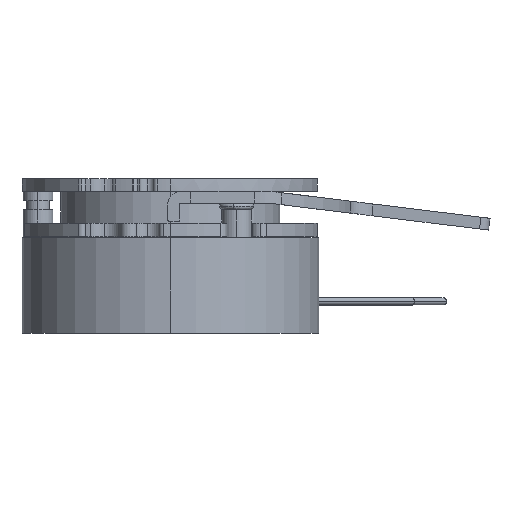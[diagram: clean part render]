
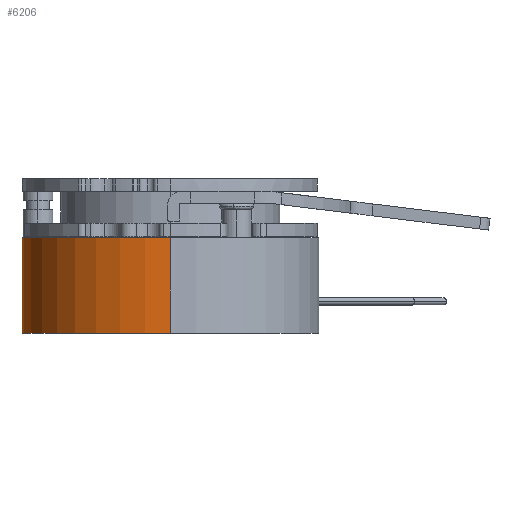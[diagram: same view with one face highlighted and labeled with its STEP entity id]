
A CAD part, left-side view. The second image highlights one B-rep face of the part: STEP entity #6206.
In plain terms, the highlighted cylindrical face has radius 32.5 mm (diameter 65 mm), a partial arc.
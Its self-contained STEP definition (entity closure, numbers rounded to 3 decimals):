
#781 = CARTESIAN_POINT ( 'NONE',  ( 32.5, 0., 21. ) ) ;
#786 = DIRECTION ( 'NONE',  ( 0., 0., -1. ) ) ;
#4063 = VERTEX_POINT ( 'NONE', #13033 ) ;
#4092 = EDGE_LOOP ( 'NONE', ( #9966, #9792, #10599, #10595 ) ) ;
#4120 = VERTEX_POINT ( 'NONE', #13010 ) ;
#4151 = VERTEX_POINT ( 'NONE', #12995 ) ;
#4185 = VERTEX_POINT ( 'NONE', #12984 ) ;
#4828 = EDGE_CURVE ( 'NONE', #4120, #4151, #9097, .T. ) ;
#5111 = EDGE_CURVE ( 'NONE', #4063, #4185, #9346, .T. ) ;
#5245 = EDGE_CURVE ( 'NONE', #4063, #4120, #8655, .T. ) ;
#6206 = ADVANCED_FACE ( 'NONE', ( #11833 ), #11786, .T. ) ;
#6792 = EDGE_CURVE ( 'NONE', #4151, #4185, #13342, .T. ) ;
#6943 = AXIS2_PLACEMENT_3D ( 'NONE', #9237, #9235, #9232 ) ;
#8655 = CIRCLE ( 'NONE', #12438, 32.5 ) ;
#9097 = LINE ( 'NONE', #781, #9103 ) ;
#9103 = VECTOR ( 'NONE', #786, 1000. ) ;
#9232 = DIRECTION ( 'NONE',  ( -1., 0., 0. ) ) ;
#9235 = DIRECTION ( 'NONE',  ( 0., 0., 1. ) ) ;
#9237 = CARTESIAN_POINT ( 'NONE',  ( 0., 0., 0. ) ) ;
#9343 = VECTOR ( 'NONE', #15676, 1000. ) ;
#9346 = LINE ( 'NONE', #15645, #9343 ) ;
#9792 = ORIENTED_EDGE ( 'NONE', *, *, #4828, .T. ) ;
#9966 = ORIENTED_EDGE ( 'NONE', *, *, #5245, .T. ) ;
#10595 = ORIENTED_EDGE ( 'NONE', *, *, #5111, .F. ) ;
#10599 = ORIENTED_EDGE ( 'NONE', *, *, #6792, .T. ) ;
#10856 = AXIS2_PLACEMENT_3D ( 'NONE', #13648, #13734, #13717 ) ;
#11786 = CYLINDRICAL_SURFACE ( 'NONE', #10856, 32.5 ) ;
#11833 = FACE_OUTER_BOUND ( 'NONE', #4092, .T. ) ;
#12438 = AXIS2_PLACEMENT_3D ( 'NONE', #13591, #13590, #13589 ) ;
#12984 = CARTESIAN_POINT ( 'NONE',  ( -32.5, 0., 0. ) ) ;
#12995 = CARTESIAN_POINT ( 'NONE',  ( 32.5, 0., 0. ) ) ;
#13010 = CARTESIAN_POINT ( 'NONE',  ( 32.5, 0., 21. ) ) ;
#13033 = CARTESIAN_POINT ( 'NONE',  ( -32.5, 0., 21. ) ) ;
#13342 = CIRCLE ( 'NONE', #6943, 32.5 ) ;
#13589 = DIRECTION ( 'NONE',  ( -1., 0., 0. ) ) ;
#13590 = DIRECTION ( 'NONE',  ( 0., 0., -1. ) ) ;
#13591 = CARTESIAN_POINT ( 'NONE',  ( 0., 0., 21. ) ) ;
#13648 = CARTESIAN_POINT ( 'NONE',  ( 0., 0., 21. ) ) ;
#13717 = DIRECTION ( 'NONE',  ( -1., 0., 0. ) ) ;
#13734 = DIRECTION ( 'NONE',  ( 0., 0., -1. ) ) ;
#15645 = CARTESIAN_POINT ( 'NONE',  ( -32.5, 0., 21. ) ) ;
#15676 = DIRECTION ( 'NONE',  ( 0., 0., -1. ) ) ;
